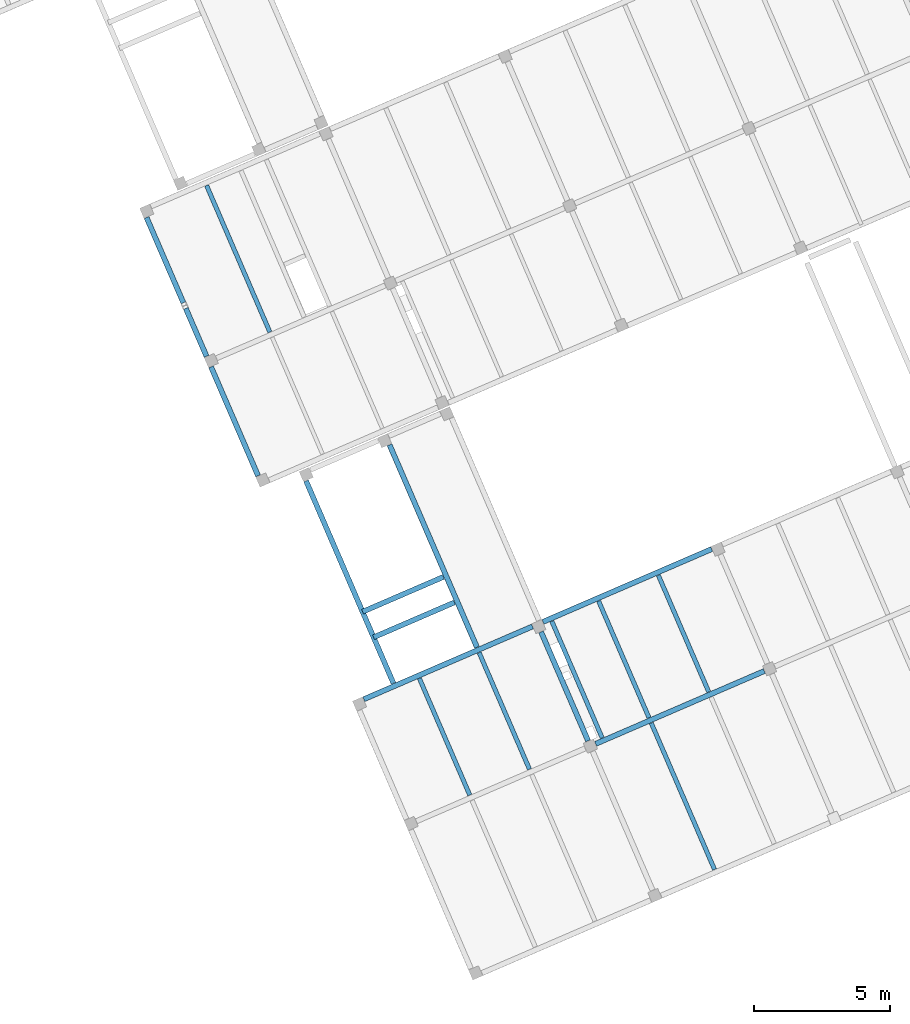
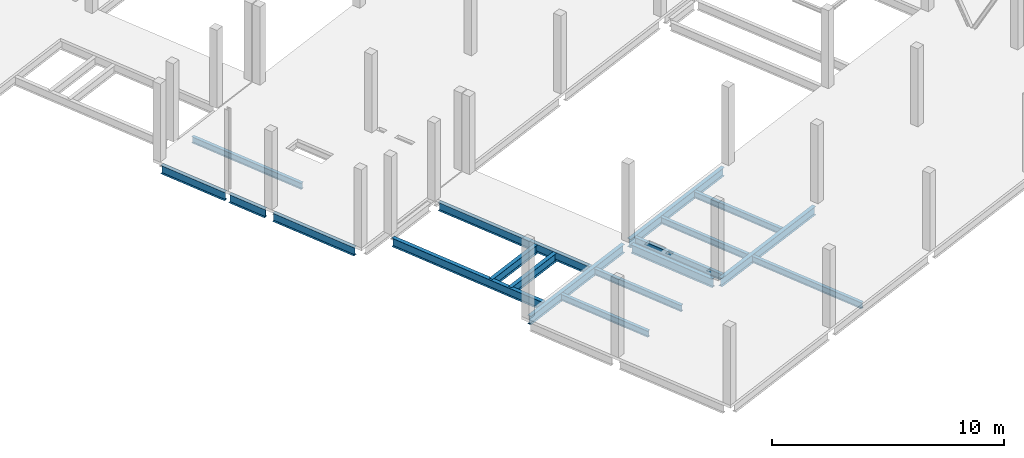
# One storey, part 7 of 24: 18 beams.
"""IFC4 building model written with IfcOpenShell, lengths in metres."""

import ifcopenshell
import ifcopenshell.guid

model = None  # the IFC model being written
_history = None  # IfcOwnerHistory: only IFC2X3 demands one
_inside = {}  # id of a spatial element -> (the spatial element, [elements in it])
_under = {}  # id of a project, library or spatial element -> (it, [spatial elements below it])
_declared = {}  # id of a project -> (the project, [libraries it declares])
_typed = {}  # id of a type object -> (the type object, [elements of that type])
_made_of = {}  # id of a material, layer set ... -> (it, [elements and type objects made of it])


def new_model(schema):
    """Start an empty IFC model of exactly this schema.

    Asked for "IFC4X3", IfcOpenShell would pick the latest addendum, in which some entities
    have other attributes; the version numbers below select the first issue.
    IFC2X3 requires an IfcOwnerHistory on every rooted entity: one is made here for all.
    """
    global model, _history
    if schema == "IFC4X3":
        model = ifcopenshell.file(schema_version=(4, 3, 0, 0))
    else:
        model = ifcopenshell.file(schema=schema)
    _inside.clear()
    _under.clear()
    _declared.clear()
    _typed.clear()
    _made_of.clear()
    _history = None
    if model.schema == "IFC2X3":
        org = make("IfcOrganization", Name="unknown")
        user = make(
            "IfcPersonAndOrganization",
            ThePerson=make("IfcPerson", FamilyName="unknown"),
            TheOrganization=org,
        )
        app = make(
            "IfcApplication",
            ApplicationDeveloper=org,
            Version="unknown",
            ApplicationFullName="unknown",
            ApplicationIdentifier="unknown",
        )
        _history = make(
            "IfcOwnerHistory",
            OwningUser=user,
            OwningApplication=app,
            ChangeAction="ADDED",
            CreationDate=0,
        )
    return model


def make(cls, **values):
    """One entity of the class cls with the attributes given. An attribute that is None is left unset."""
    return model.create_entity(
        cls, **{name: value for name, value in values.items() if value is not None}
    )


def entity(cls, *values):
    """Any entity or typed value of the class cls, its attributes in the order of the schema. None: left unset."""
    e = model.create_entity(cls)
    for i, value in enumerate(values):
        if value is not None:
            e[i] = value
    return e


def rooted(cls, **values):
    """An entity with a GlobalId (a new one), such as an element, a storey or a relation."""
    return make(cls, GlobalId=ifcopenshell.guid.new(), OwnerHistory=_history, **values)


def si_unit(unit_type, name, prefix=None):
    """IfcSIUnit, for example si_unit("LENGTHUNIT", "METRE", prefix="MILLI")."""
    return make("IfcSIUnit", UnitType=unit_type, Prefix=prefix, Name=name)


def converted_unit(unit_type, name, factor, base, dimensions=None, offset=None):
    """IfcConversionBasedUnit, such as the inch: factor (a typed value) times the base unit."""
    return make(
        "IfcConversionBasedUnit"
        if offset is None
        else "IfcConversionBasedUnitWithOffset",
        ConversionOffset=offset,
        Dimensions=None
        if dimensions is None
        else entity("IfcDimensionalExponents", *dimensions),
        UnitType=unit_type,
        Name=name,
        ConversionFactor=make(
            "IfcMeasureWithUnit", ValueComponent=factor, UnitComponent=base
        ),
    )


def derived_unit(unit_type, elements):
    """IfcDerivedUnit: a product of units, each with its exponent."""
    return make(
        "IfcDerivedUnit",
        Elements=[
            make("IfcDerivedUnitElement", Unit=unit, Exponent=power)
            for unit, power in elements
        ],
        UnitType=unit_type,
    )


def assignment(units):
    """IfcUnitAssignment: the units of a project."""
    return None if units is None else make("IfcUnitAssignment", Units=units)


def point(xyz):
    """IfcCartesianPoint."""
    return None if xyz is None else make("IfcCartesianPoint", Coordinates=xyz)


def direction(xyz):
    """IfcDirection."""
    return None if xyz is None else make("IfcDirection", DirectionRatios=xyz)


def frame(location, z_axis=None, x_axis=None):
    """IfcAxis2Placement3D, a coordinate frame: its origin and axes. An axis left out is left unset."""
    return make(
        "IfcAxis2Placement3D",
        Location=point(location),
        Axis=direction(z_axis),
        RefDirection=direction(x_axis),
    )


def origin():
    """The frame at (0, 0, 0) with its axes left unset."""
    return frame((0.0, 0.0, 0.0))


def place(relative_to, where):
    """IfcLocalPlacement: puts the frame where relative to a parent placement (None: the world)."""
    return make(
        "IfcLocalPlacement", PlacementRelTo=relative_to, RelativePlacement=where
    )


def context(
    kind, dimensions, precision=None, world=None, true_north=None, identifier=None
):
    """IfcGeometricRepresentationContext, for example the 3D "Model" context."""
    return make(
        "IfcGeometricRepresentationContext",
        ContextIdentifier=identifier,
        ContextType=kind,
        CoordinateSpaceDimension=dimensions,
        Precision=precision,
        WorldCoordinateSystem=world,
        TrueNorth=true_north,
    )


def subcontext(parent, identifier, kind, view, scale=None):
    """IfcGeometricRepresentationSubContext, for example "Body" below "Model"."""
    return make(
        "IfcGeometricRepresentationSubContext",
        ContextIdentifier=identifier,
        ContextType=kind,
        ParentContext=parent,
        TargetScale=scale,
        TargetView=view,
    )


def project(units=None, contexts=None):
    """IfcProject with its units and contexts."""
    return rooted(
        "IfcProject",
        Name="project",
        RepresentationContexts=contexts,
        UnitsInContext=assignment(units),
    )


def spatial(cls, under=None, at=None, **own):
    """A site, building, storey or space (cls), placed at a placement, below another one or the project."""
    s = rooted(cls, ObjectPlacement=at, **own)
    if under is not None:
        _under.setdefault(under.id(), (under, []))[1].append(s)
    return s


def point_list(points):
    """IfcCartesianPointList2D or 3D."""
    cls = (
        "IfcCartesianPointList2D" if len(points[0]) == 2 else "IfcCartesianPointList3D"
    )
    return make(cls, CoordList=points)


def line(*indices):
    """IfcLineIndex: a straight run through numbered points of an indexed curve."""
    return model.create_entity("IfcLineIndex", indices)


def arc(*indices):
    """IfcArcIndex: an arc through three numbered points of an indexed curve."""
    return model.create_entity("IfcArcIndex", indices)


def indexed_curve(points, segments=None, self_intersect=None):
    """IfcIndexedPolyCurve: lines and arcs through numbered points (the first is 1)."""
    return make(
        "IfcIndexedPolyCurve",
        Points=point_list(points),
        Segments=segments,
        SelfIntersect=self_intersect,
    )


def outline(outer, holes=None, kind="AREA"):
    """IfcArbitraryClosedProfileDef: a profile drawn as a closed curve; with holes, ...WithVoids."""
    if holes is None:
        return make("IfcArbitraryClosedProfileDef", ProfileType=kind, OuterCurve=outer)
    return make(
        "IfcArbitraryProfileDefWithVoids",
        ProfileType=kind,
        OuterCurve=outer,
        InnerCurves=holes,
    )


def extrude(swept, where, along, depth):
    """IfcExtrudedAreaSolid: the profile swept, set in the frame where, extruded along a direction by depth."""
    return make(
        "IfcExtrudedAreaSolid",
        SweptArea=swept,
        Position=where,
        ExtrudedDirection=direction(along),
        Depth=depth,
    )


def shape(context_of_items, identifier, shape_type, items):
    """IfcShapeRepresentation: the items that make up one representation, for example the "Body"."""
    return make(
        "IfcShapeRepresentation",
        ContextOfItems=context_of_items,
        RepresentationIdentifier=identifier,
        RepresentationType=shape_type,
        Items=items,
    )


def source(mapping_origin, context_of_items, identifier, shape_type, items):
    """IfcRepresentationMap: a shape defined once, which mapped items show again and again."""
    return make(
        "IfcRepresentationMap",
        MappingOrigin=mapping_origin,
        MappedRepresentation=shape(context_of_items, identifier, shape_type, items),
    )


def transform(
    local_origin,
    x_axis=None,
    y_axis=None,
    z_axis=None,
    scale=None,
    scale2=None,
    scale3=None,
    uniform=True,
):
    """IfcCartesianTransformationOperator3D, or its non-uniform kind. x_axis, y_axis, z_axis: its Axis1, 2, 3."""
    if uniform:
        return make(
            "IfcCartesianTransformationOperator3D",
            Axis1=direction(x_axis),
            Axis2=direction(y_axis),
            LocalOrigin=point(local_origin),
            Scale=scale,
            Axis3=direction(z_axis),
        )
    return make(
        "IfcCartesianTransformationOperator3DnonUniform",
        Axis1=direction(x_axis),
        Axis2=direction(y_axis),
        LocalOrigin=point(local_origin),
        Scale=scale,
        Axis3=direction(z_axis),
        Scale2=scale2,
        Scale3=scale3,
    )


def mapped(mapping_source, mapping_target):
    """IfcMappedItem: shows the shape of a source again, moved by a transform."""
    return make(
        "IfcMappedItem", MappingSource=mapping_source, MappingTarget=mapping_target
    )


def material(Name=None, Category=None):
    """IfcMaterial."""
    return make("IfcMaterial", Name=Name, Category=Category)


def made_of(thing, what):
    """Note that an element or type object is made of a material, layer set ...; save() writes the relation."""
    if what is not None:
        _made_of.setdefault(what.id(), (what, []))[1].append(thing)
    return thing


def type_object(cls, material=None, **own):
    """A type object (cls), such as IfcWallType, which elements share."""
    return made_of(rooted(cls, **own), material)


def type_shapes(of_type, sources):
    """Give a type object the sources (RepresentationMaps) that its elements show as mapped items."""
    of_type.RepresentationMaps = sources


def element(
    cls,
    number,
    at=None,
    inside=None,
    cuts=None,
    type_object=None,
    material=None,
    context=None,
    identifier="Body",
    shape_type=None,
    held_by="IfcProductDefinitionShape",
    body=None,
    shapes=None,
    **own,
):
    """One element of the class cls, such as IfcWall. Its Tag is "e" and its number.

    at: its placement. inside: the storey or other place that contains it. cuts: it is an
    opening in that element (IfcRelVoidsElement). A single representation is given by context,
    identifier, shape_type and body (its items); several are given by shapes. held_by: the class
    of the entity that holds the representations. save() writes the other relations.
    """
    e = rooted(cls, Tag="e%d" % number, ObjectPlacement=at, **own)
    if body is not None:
        shapes = [shape(context, identifier, shape_type, body)]
    if shapes is not None:
        e.Representation = make(held_by, Representations=shapes)
    if inside is not None:
        _inside.setdefault(inside.id(), (inside, []))[1].append(e)
    if cuts is not None:
        rooted(
            "IfcRelVoidsElement", RelatingBuildingElement=cuts, RelatedOpeningElement=e
        )
    if type_object is not None:
        _typed.setdefault(type_object.id(), (type_object, []))[1].append(e)
    return made_of(e, material)


def aggregate(whole, parts):
    """IfcRelAggregates: a whole, such as a stair, and the parts it consists of."""
    return rooted("IfcRelAggregates", RelatingObject=whole, RelatedObjects=parts)


def save(model, path):
    """Write the relations noted so far, then the file.

    IfcRelAggregates (storeys below a building ...), IfcRelContainedInSpatialStructure (elements
    in a storey), IfcRelDefinesByType, IfcRelAssociatesMaterial and IfcRelDeclares: one each for
    every whole, place, type object, material and project.
    """
    for whole, parts in _under.values():
        aggregate(whole, parts)
    for where, things in _inside.values():
        rooted(
            "IfcRelContainedInSpatialStructure",
            RelatedElements=things,
            RelatingStructure=where,
        )
    for kind, things in _typed.values():
        rooted("IfcRelDefinesByType", RelatedObjects=things, RelatingType=kind)
    for what, things in _made_of.values():
        rooted("IfcRelAssociatesMaterial", RelatedObjects=things, RelatingMaterial=what)
    for by, libraries in _declared.values():
        rooted("IfcRelDeclares", RelatingContext=by, RelatedDefinitions=libraries)
    model.write(path)


model = new_model("IFC4")

# Units and contexts
model_context = context("Model", 3, precision=1e-05, world=origin(), true_north=direction((6.12323399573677e-17, 1.0)))
body_context = subcontext(model_context, "Body", "Model", "MODEL_VIEW")
ifc_project = project(units=[si_unit("LENGTHUNIT", "METRE"), si_unit("AREAUNIT", "SQUARE_METRE"), si_unit("VOLUMEUNIT", "CUBIC_METRE"), converted_unit("PLANEANGLEUNIT", "DEGREE", entity("IfcPlaneAngleMeasure", 0.0174532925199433), si_unit("PLANEANGLEUNIT", "RADIAN"), dimensions=[0, 0, 0, 0, 0, 0, 0]), si_unit("MASSUNIT", "GRAM", prefix="KILO"), derived_unit("MOMENTOFINERTIAUNIT", [(si_unit("LENGTHUNIT", "METRE"), 4)]), derived_unit("LINEARFORCEUNIT", [(si_unit("MASSUNIT", "GRAM", prefix="KILO"), 1), (si_unit("TIMEUNIT", "SECOND"), -2)]), derived_unit("WARPINGCONSTANTUNIT", [(si_unit("LENGTHUNIT", "METRE"), 6)]), derived_unit("THERMALTRANSMITTANCEUNIT", [(si_unit("MASSUNIT", "GRAM", prefix="KILO"), 1), (si_unit("THERMODYNAMICTEMPERATUREUNIT", "KELVIN"), -1), (si_unit("TIMEUNIT", "SECOND"), -3)]), derived_unit("USERDEFINED", [(si_unit("MASSUNIT", "GRAM", prefix="KILO"), 1), (si_unit("TIMEUNIT", "SECOND"), -2), (si_unit("THERMODYNAMICTEMPERATUREUNIT", "KELVIN"), -1)]), derived_unit("THERMALRESISTANCEUNIT", [(si_unit("MASSUNIT", "GRAM", prefix="KILO"), -1), (si_unit("TIMEUNIT", "SECOND"), 3), (si_unit("THERMODYNAMICTEMPERATUREUNIT", "KELVIN"), 1)])], contexts=[model_context])

# Site, building, storey
site_placement = place(None, origin())
site = spatial("IfcSite", under=ifc_project, at=site_placement, Name="Default", CompositionType="ELEMENT")
building_placement = place(site_placement, frame((12.6613425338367, -82.5732315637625, 317.15), z_axis=(0.0, 0.0, 1.0), x_axis=(-0.396377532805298, 0.918087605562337, 0.0)))
building = spatial("IfcBuilding", under=site, at=building_placement, Name="CESFAM Coyhaique", CompositionType="ELEMENT")
storey_placement = place(building_placement, frame((0.0, 0.0, 4.20000000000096)))
storey = spatial("IfcBuildingStorey", under=building, at=storey_placement, Name="Nivel 2", CompositionType="ELEMENT", Elevation=4.20000000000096)

# Beams
ifc_material = material(Name="Steel, 45-345", Category="Metal")
beam_type_1 = type_object("IfcBeamType", Name="M_W Shapes:W450X190mm", PredefinedType="BEAM", material=ifc_material)
shared_shape_1 = source(origin(), body_context, "Body", "SweptSolid", [
    extrude(outline(indexed_curve([(-0.225, -0.0950000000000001), (-0.215350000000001, -0.0949999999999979), (-0.21535, -0.0105699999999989), (-0.213109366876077, -0.00516063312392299), (-0.2077, -0.00291999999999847), (0.207699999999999, -0.00291999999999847), (0.213109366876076, -0.00516063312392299), (0.215349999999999, -0.0105699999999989), (0.215349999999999, -0.0950000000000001), (0.225, -0.0950000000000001), (0.225, 0.0950000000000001), (0.215349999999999, 0.0950000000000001), (0.215349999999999, 0.0105700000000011), (0.213109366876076, 0.00516063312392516), (0.207699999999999, 0.00292000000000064), (-0.2077, 0.00292000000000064), (-0.213109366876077, 0.00516063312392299), (-0.215350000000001, 0.0105700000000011), (-0.215350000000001, 0.0950000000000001), (-0.225, 0.0950000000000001)], segments=[line(1, 2, 3), arc(3, 4, 5), line(5, 6), arc(6, 7, 8), line(8, 9, 10, 11, 12, 13), arc(13, 14, 15), line(15, 16), arc(16, 17, 18), line(18, 19, 20, 1)], self_intersect=False)), frame((10.3815534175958, 10.0028504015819, 3.82500000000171), z_axis=(1.0, 0.0, 0.0), x_axis=(0.0, 0.0, -1.0)), (0.0, 0.0, 1.0), 4.3746),
])
type_shapes(beam_type_1, [shared_shape_1])
beam_1_placement = place(storey_placement, frame((0.0, 0.0, -4.20000000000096)))
element("IfcBeam", 1, at=beam_1_placement, inside=storey, type_object=beam_type_1, Name="M_W Shapes:W450X190mm", ObjectType="M_W Shapes:W450X190mm", PredefinedType="BEAM", context=body_context, shape_type="MappedRepresentation", body=[
    mapped(shared_shape_1, transform((0.0, 0.0, 0.0), scale=1.0)),
])
beam_type_2 = type_object("IfcBeamType", Name="M_W Shapes:W450X190mm", PredefinedType="BEAM", material=ifc_material)
shared_shape_2 = source(origin(), body_context, "Body", "SweptSolid", [
    extrude(outline(indexed_curve([(-0.0949999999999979, -0.225000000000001), (0.0950000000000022, -0.225000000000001), (0.0950000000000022, -0.21535), (0.0105700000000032, -0.21535), (0.00516063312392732, -0.213109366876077), (0.0029200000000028, -0.2077), (0.0029200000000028, 0.207699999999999), (0.00516063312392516, 0.213109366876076), (0.0105700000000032, 0.21535), (0.0950000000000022, 0.21535), (0.0950000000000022, 0.224999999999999), (-0.0949999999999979, 0.224999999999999), (-0.0949999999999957, 0.21535), (-0.0105699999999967, 0.215349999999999), (-0.00516063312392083, 0.213109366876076), (-0.0029199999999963, 0.207699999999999), (-0.0029199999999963, -0.2077), (-0.00516063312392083, -0.213109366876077), (-0.0105699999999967, -0.21535), (-0.0949999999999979, -0.21535)], segments=[line(1, 2, 3, 4), arc(4, 5, 6), line(6, 7), arc(7, 8, 9), line(9, 10, 11, 12, 13, 14), arc(14, 15, 16), line(16, 17), arc(17, 18, 19), line(19, 20, 1)], self_intersect=False)), frame((15.0688534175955, 10.2155504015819, 3.82500000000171), z_axis=(0.0, 1.0, 0.0), x_axis=(-1.0, 0.0, 0.0)), (0.0, 0.0, 1.0), 6.7746),
])
type_shapes(beam_type_2, [shared_shape_2])
beam_2_placement = place(storey_placement, frame((0.0, 0.0, -4.20000000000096)))
element("IfcBeam", 2, at=beam_2_placement, inside=storey, type_object=beam_type_2, Name="M_W Shapes:W450X190mm", ObjectType="M_W Shapes:W450X190mm", PredefinedType="BEAM", context=body_context, shape_type="MappedRepresentation", body=[
    mapped(shared_shape_2, transform((0.0, 0.0, 0.0), scale=1.0)),
])
beam_type_3 = type_object("IfcBeamType", Name="M_W Shapes:W450X190mm", PredefinedType="BEAM", material=ifc_material)
shared_shape_3 = source(origin(), body_context, "Body", "SweptSolid", [
    extrude(outline(indexed_curve([(-0.225, -0.0950000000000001), (-0.215350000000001, -0.0949999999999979), (-0.21535, -0.0105699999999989), (-0.213109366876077, -0.00516063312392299), (-0.2077, -0.00291999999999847), (0.207699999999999, -0.00291999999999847), (0.213109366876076, -0.00516063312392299), (0.215349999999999, -0.0105699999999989), (0.215349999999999, -0.0950000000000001), (0.225, -0.0950000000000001), (0.225, 0.0950000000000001), (0.215349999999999, 0.0950000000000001), (0.215349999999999, 0.0105700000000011), (0.213109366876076, 0.00516063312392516), (0.207699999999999, 0.00292000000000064), (-0.2077, 0.00292000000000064), (-0.213109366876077, 0.00516063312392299), (-0.215350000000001, 0.0105700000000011), (-0.215350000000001, 0.0950000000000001), (-0.225, 0.0950000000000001)], segments=[line(1, 2, 3), arc(3, 4, 5), line(5, 6), arc(6, 7, 8), line(8, 9, 10, 11, 12, 13), arc(13, 14, 15), line(15, 16), arc(16, 17, 18), line(18, 19, 20, 1)], self_intersect=False)), frame((24.1815534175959, 17.3028504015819, 3.82500000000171), z_axis=(1.0, 0.0, 0.0), x_axis=(0.0, 0.0, -1.0)), (0.0, 0.0, 1.0), 4.3746),
])
type_shapes(beam_type_3, [shared_shape_3])
beam_3_placement = place(storey_placement, frame((0.0, 0.0, -4.20000000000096)))
element("IfcBeam", 3, at=beam_3_placement, inside=storey, type_object=beam_type_3, Name="M_W Shapes:W450X190mm", ObjectType="M_W Shapes:W450X190mm", PredefinedType="BEAM", context=body_context, shape_type="MappedRepresentation", body=[
    mapped(shared_shape_3, transform((0.0, 0.0, 0.0), scale=1.0)),
])
beam_type_4 = type_object("IfcBeamType", Name="M_W Shapes:W450X190mm", PredefinedType="BEAM", material=ifc_material)
shared_shape_4 = source(origin(), body_context, "Body", "SweptSolid", [
    extrude(outline(indexed_curve([(-0.0950000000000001, -0.225000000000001), (0.0950000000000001, -0.225000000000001), (0.0950000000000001, -0.21535), (0.0105700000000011, -0.21535), (0.00516063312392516, -0.213109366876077), (0.00292000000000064, -0.2077), (0.00292000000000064, 0.207699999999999), (0.00516063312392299, 0.213109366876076), (0.0105700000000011, 0.21535), (0.0950000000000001, 0.21535), (0.0950000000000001, 0.224999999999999), (-0.0950000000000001, 0.224999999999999), (-0.0949999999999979, 0.21535), (-0.0105699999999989, 0.215349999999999), (-0.00516063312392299, 0.213109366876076), (-0.00291999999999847, 0.207699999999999), (-0.00291999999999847, -0.2077), (-0.00516063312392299, -0.213109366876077), (-0.0105699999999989, -0.21535), (-0.0950000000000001, -0.21535)], segments=[line(1, 2, 3, 4), arc(4, 5, 6), line(6, 7), arc(7, 8, 9), line(9, 10, 11, 12, 13, 14), arc(14, 15, 16), line(16, 17), arc(17, 18, 19), line(19, 20, 1)], self_intersect=False)), frame((10.1688534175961, 3.0155504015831, 3.82500000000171), z_axis=(0.0, 1.0, 0.0), x_axis=(-1.0, 0.0, 0.0)), (0.0, 0.0, 1.0), 6.7746),
])
type_shapes(beam_type_4, [shared_shape_4])
beam_4_placement = place(storey_placement, frame((0.0, 0.0, -4.20000000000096)))
element("IfcBeam", 4, at=beam_4_placement, inside=storey, type_object=beam_type_4, Name="M_W Shapes:W450X190mm", ObjectType="M_W Shapes:W450X190mm", PredefinedType="BEAM", context=body_context, shape_type="MappedRepresentation", body=[
    mapped(shared_shape_4, transform((0.0, 0.0, 0.0), scale=1.0)),
])
beam_type_5 = type_object("IfcBeamType", Name="M_W Shapes:W450X190mm", PredefinedType="BEAM", material=ifc_material)
shared_shape_5 = source(origin(), body_context, "Body", "SweptSolid", [
    extrude(outline(indexed_curve([(-0.0950000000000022, -0.225000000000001), (0.0949999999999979, -0.225000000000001), (0.0949999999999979, -0.21535), (0.0105699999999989, -0.21535), (0.00516063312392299, -0.213109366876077), (0.00291999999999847, -0.2077), (0.00291999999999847, 0.207699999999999), (0.00516063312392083, 0.213109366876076), (0.0105699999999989, 0.21535), (0.0949999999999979, 0.21535), (0.0949999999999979, 0.224999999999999), (-0.0950000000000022, 0.224999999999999), (-0.0950000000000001, 0.21535), (-0.0105700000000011, 0.215349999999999), (-0.00516063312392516, 0.213109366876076), (-0.00292000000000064, 0.207699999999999), (-0.00292000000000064, -0.2077), (-0.00516063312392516, -0.213109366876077), (-0.0105700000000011, -0.21535), (-0.0950000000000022, -0.21535)], segments=[line(1, 2, 3, 4), arc(4, 5, 6), line(6, 7), arc(7, 8, 9), line(9, 10, 11, 12, 13, 14), arc(14, 15, 16), line(16, 17), arc(17, 18, 19), line(19, 20, 1)], self_intersect=False)), frame((15.0688534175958, 3.0155504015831, 3.82500000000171), z_axis=(0.0, 1.0, 0.0), x_axis=(-1.0, 0.0, 0.0)), (0.0, 0.0, 1.0), 6.7746),
])
type_shapes(beam_type_5, [shared_shape_5])
beam_5_placement = place(storey_placement, frame((0.0, 0.0, -4.20000000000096)))
element("IfcBeam", 5, at=beam_5_placement, inside=storey, type_object=beam_type_5, Name="M_W Shapes:W450X190mm", ObjectType="M_W Shapes:W450X190mm", PredefinedType="BEAM", context=body_context, shape_type="MappedRepresentation", body=[
    mapped(shared_shape_5, transform((0.0, 0.0, 0.0), scale=1.0)),
])
beam_type_6 = type_object("IfcBeamType", Name="M_W Shapes:W450X190mm", PredefinedType="BEAM", material=ifc_material)
shared_shape_6 = source(origin(), body_context, "Body", "SweptSolid", [
    extrude(outline(indexed_curve([(-0.225, -0.0949999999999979), (-0.215350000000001, -0.0949999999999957), (-0.21535, -0.0105699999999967), (-0.213109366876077, -0.00516063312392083), (-0.2077, -0.0029199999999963), (0.207699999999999, -0.0029199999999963), (0.213109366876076, -0.00516063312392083), (0.215349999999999, -0.0105699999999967), (0.215349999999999, -0.0949999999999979), (0.225, -0.0949999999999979), (0.225, 0.0950000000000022), (0.215349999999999, 0.0950000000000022), (0.215349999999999, 0.0105700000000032), (0.213109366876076, 0.00516063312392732), (0.207699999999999, 0.0029200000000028), (-0.2077, 0.0029200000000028), (-0.213109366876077, 0.00516063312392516), (-0.215350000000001, 0.0105700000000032), (-0.215350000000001, 0.0950000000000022), (-0.225, 0.0950000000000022)], segments=[line(1, 2, 3), arc(3, 4, 5), line(5, 6), arc(6, 7, 8), line(8, 9, 10, 11, 12, 13), arc(13, 14, 15), line(15, 16), arc(16, 17, 18), line(18, 19, 20, 1)], self_intersect=False)), frame((28.9815534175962, 17.3028504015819, 3.82500000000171), z_axis=(1.0, 0.0, 0.0), x_axis=(0.0, 0.0, -1.0)), (0.0, 0.0, 1.0), 1.9246),
])
type_shapes(beam_type_6, [shared_shape_6])
beam_6_placement = place(storey_placement, frame((0.0, 0.0, -4.20000000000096)))
element("IfcBeam", 6, at=beam_6_placement, inside=storey, type_object=beam_type_6, Name="M_W Shapes:W450X190mm", ObjectType="M_W Shapes:W450X190mm", PredefinedType="BEAM", context=body_context, shape_type="MappedRepresentation", body=[
    mapped(shared_shape_6, transform((0.0, 0.0, 0.0), scale=1.0)),
])
beam_type_7 = type_object("IfcBeamType", Name="M_W Shapes:W450X190mm", PredefinedType="BEAM", material=ifc_material)
shared_shape_7 = source(origin(), body_context, "Body", "SweptSolid", [
    extrude(outline(indexed_curve([(-0.225, -0.0949999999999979), (-0.215350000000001, -0.0949999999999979), (-0.21535, -0.0105699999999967), (-0.213109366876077, -0.00516063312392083), (-0.2077, -0.0029199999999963), (0.207699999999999, -0.0029199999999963), (0.213109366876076, -0.00516063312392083), (0.215349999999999, -0.0105699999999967), (0.215349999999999, -0.0949999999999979), (0.225, -0.0949999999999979), (0.225, 0.0950000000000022), (0.215349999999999, 0.0950000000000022), (0.215349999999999, 0.0105700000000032), (0.213109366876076, 0.00516063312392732), (0.207699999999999, 0.0029200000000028), (-0.2077, 0.0029200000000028), (-0.213109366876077, 0.00516063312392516), (-0.215350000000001, 0.0105700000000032), (-0.215350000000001, 0.0950000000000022), (-0.225, 0.0950000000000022)], segments=[line(1, 2, 3), arc(3, 4, 5), line(5, 6), arc(6, 7, 8), line(8, 9, 10, 11, 12, 13), arc(13, 14, 15), line(15, 16), arc(16, 17, 18), line(18, 19, 20, 1)], self_intersect=False)), frame((15.176553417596, 12.3978519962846, 3.82500000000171), z_axis=(1.0, 0.0, 0.0), x_axis=(0.0, 0.0, -1.0)), (0.0, 0.0, 1.0), 8.1296),
])
type_shapes(beam_type_7, [shared_shape_7])
beam_7_placement = place(storey_placement, frame((0.0, 0.0, -4.20000000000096)))
element("IfcBeam", 7, at=beam_7_placement, inside=storey, type_object=beam_type_7, Name="M_W Shapes:W450X190mm", ObjectType="M_W Shapes:W450X190mm", PredefinedType="BEAM", context=body_context, shape_type="MappedRepresentation", body=[
    mapped(shared_shape_7, transform((0.0, 0.0, 0.0), scale=1.0)),
])
beam_type_8 = type_object("IfcBeamType", Name="M_W Shapes:W450X190mm", PredefinedType="BEAM", material=ifc_material)
shared_shape_8 = source(origin(), body_context, "Body", "SweptSolid", [
    extrude(outline(indexed_curve([(-0.225, -0.0950000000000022), (-0.215350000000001, -0.0950000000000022), (-0.21535, -0.0105700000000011), (-0.213109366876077, -0.00516063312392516), (-0.2077, -0.00292000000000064), (0.207699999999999, -0.00292000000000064), (0.213109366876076, -0.00516063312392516), (0.215349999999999, -0.0105700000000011), (0.215349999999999, -0.0950000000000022), (0.225, -0.0950000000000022), (0.225, 0.0949999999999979), (0.215349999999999, 0.0949999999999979), (0.215349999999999, 0.0105699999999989), (0.213109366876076, 0.00516063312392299), (0.207699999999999, 0.00291999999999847), (-0.2077, 0.00291999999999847), (-0.213109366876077, 0.00516063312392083), (-0.215350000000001, 0.0105699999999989), (-0.215350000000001, 0.0949999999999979), (-0.225, 0.0949999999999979)], segments=[line(1, 2, 3), arc(3, 4, 5), line(5, 6), arc(6, 7, 8), line(8, 9, 10, 11, 12, 13), arc(13, 14, 15), line(15, 16), arc(16, 17, 18), line(18, 19, 20, 1)], self_intersect=False)), frame((15.176553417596, 15.7528504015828, 3.82500000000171), z_axis=(1.0, 0.0, 0.0), x_axis=(0.0, 0.0, -1.0)), (0.0, 0.0, 1.0), 8.1296),
])
type_shapes(beam_type_8, [shared_shape_8])
beam_8_placement = place(storey_placement, frame((0.0, 0.0, -4.20000000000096)))
element("IfcBeam", 8, at=beam_8_placement, inside=storey, type_object=beam_type_8, Name="M_W Shapes:W450X190mm", ObjectType="M_W Shapes:W450X190mm", PredefinedType="BEAM", context=body_context, shape_type="MappedRepresentation", body=[
    mapped(shared_shape_8, transform((0.0, 0.0, 0.0), scale=1.0)),
])
beam_type_9 = type_object("IfcBeamType", Name="M_W Shapes:W450X190mm", PredefinedType="BEAM", material=ifc_material)
shared_shape_9 = source(origin(), body_context, "Body", "SweptSolid", [
    extrude(outline(indexed_curve([(-0.225, -0.0950000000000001), (-0.215350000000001, -0.0950000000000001), (-0.21535, -0.0105699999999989), (-0.213109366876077, -0.00516063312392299), (-0.2077, -0.00291999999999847), (0.207699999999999, -0.00291999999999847), (0.213109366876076, -0.00516063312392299), (0.215349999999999, -0.0105699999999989), (0.215349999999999, -0.0950000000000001), (0.225, -0.0950000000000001), (0.225, 0.0950000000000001), (0.215349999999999, 0.0950000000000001), (0.215349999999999, 0.0105700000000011), (0.213109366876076, 0.00516063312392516), (0.207699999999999, 0.00292000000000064), (-0.2077, 0.00292000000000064), (-0.213109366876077, 0.00516063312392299), (-0.215350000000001, 0.0105700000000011), (-0.215350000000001, 0.0950000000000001), (-0.225, 0.0950000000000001)], segments=[line(1, 2, 3), arc(3, 4, 5), line(5, 6), arc(6, 7, 8), line(8, 9, 10, 11, 12, 13), arc(13, 14, 15), line(15, 16), arc(16, 17, 18), line(18, 19, 20, 1)], self_intersect=False)), frame((31.1315534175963, 17.3028504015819, 3.82500000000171), z_axis=(1.0, 0.0, 0.0), x_axis=(0.0, 0.0, -1.0)), (0.0, 0.0, 1.0), 3.4246),
])
type_shapes(beam_type_9, [shared_shape_9])
beam_9_placement = place(storey_placement, frame((0.0, 0.0, -4.20000000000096)))
element("IfcBeam", 9, at=beam_9_placement, inside=storey, type_object=beam_type_9, Name="M_W Shapes:W450X190mm", ObjectType="M_W Shapes:W450X190mm", PredefinedType="BEAM", context=body_context, shape_type="MappedRepresentation", body=[
    mapped(shared_shape_9, transform((0.0, 0.0, 0.0), scale=1.0)),
])
beam_type_10 = type_object("IfcBeamType", Name="M_W Shapes:W330X160mm", PredefinedType="BEAM", material=ifc_material)
shared_shape_10 = source(origin(), body_context, "Body", "SweptSolid", [
    extrude(outline(indexed_curve([(-0.164999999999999, -0.079999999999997), (-0.15535, -0.079999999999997), (-0.15535, -0.0105699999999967), (-0.153109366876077, -0.00516063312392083), (-0.1477, -0.0029199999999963), (0.1477, -0.0029199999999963), (0.153109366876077, -0.00516063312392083), (0.15535, -0.0105699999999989), (0.15535, -0.079999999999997), (0.165, -0.079999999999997), (0.165000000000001, 0.0800000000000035), (0.15535, 0.0800000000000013), (0.15535, 0.0105700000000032), (0.153109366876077, 0.00516063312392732), (0.1477, 0.0029200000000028), (-0.1477, 0.0029200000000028), (-0.153109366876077, 0.00516063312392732), (-0.15535, 0.0105700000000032), (-0.15535, 0.0800000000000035), (-0.164999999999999, 0.0800000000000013)], segments=[line(1, 2, 3), arc(3, 4, 5), line(5, 6), arc(6, 7, 8), line(8, 9, 10, 11, 12, 13), arc(13, 14, 15), line(15, 16), arc(16, 17, 18), line(18, 19, 20, 1)], self_intersect=False)), frame((10.2765534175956, 12.4028504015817, 3.88500000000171), z_axis=(1.0, 0.0, 0.0), x_axis=(0.0, 0.0, -1.0)), (0.0, 0.0, 1.0), 4.6846),
])
type_shapes(beam_type_10, [shared_shape_10])
beam_10_placement = place(storey_placement, frame((0.0, 0.0, -4.20000000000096)))
element("IfcBeam", 10, at=beam_10_placement, inside=storey, type_object=beam_type_10, Name="M_W Shapes:W330X160mm", ObjectType="M_W Shapes:W330X160mm", PredefinedType="BEAM", context=body_context, shape_type="MappedRepresentation", body=[
    mapped(shared_shape_10, transform((0.0, 0.0, 0.0), scale=1.0)),
])
beam_type_11 = type_object("IfcBeamType", Name="M_W Shapes:W330X160mm", PredefinedType="BEAM", material=ifc_material)
shared_shape_11 = source(origin(), body_context, "Body", "SweptSolid", [
    extrude(outline(indexed_curve([(-0.164999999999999, -0.0799999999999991), (-0.15535, -0.0799999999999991), (-0.15535, -0.0105699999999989), (-0.153109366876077, -0.00516063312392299), (-0.1477, -0.00291999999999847), (0.1477, -0.00291999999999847), (0.153109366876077, -0.00516063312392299), (0.15535, -0.0105700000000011), (0.15535, -0.0799999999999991), (0.165, -0.0799999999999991), (0.165000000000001, 0.0800000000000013), (0.15535, 0.0799999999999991), (0.15535, 0.0105700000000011), (0.153109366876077, 0.00516063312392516), (0.1477, 0.00292000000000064), (-0.1477, 0.00292000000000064), (-0.153109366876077, 0.00516063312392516), (-0.15535, 0.0105700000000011), (-0.15535, 0.0800000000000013), (-0.164999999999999, 0.0799999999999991)], segments=[line(1, 2, 3), arc(3, 4, 5), line(5, 6), arc(6, 7, 8), line(8, 9, 10, 11, 12, 13), arc(13, 14, 15), line(15, 16), arc(16, 17, 18), line(18, 19, 20, 1)], self_intersect=False)), frame((10.2765534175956, 14.8028504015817, 3.88500000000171), z_axis=(1.0, 0.0, 0.0), x_axis=(0.0, 0.0, -1.0)), (0.0, 0.0, 1.0), 4.6846),
])
type_shapes(beam_type_11, [shared_shape_11])
beam_11_placement = place(storey_placement, frame((0.0, 0.0, -4.20000000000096)))
element("IfcBeam", 11, at=beam_11_placement, inside=storey, type_object=beam_type_11, Name="M_W Shapes:W330X160mm", ObjectType="M_W Shapes:W330X160mm", PredefinedType="BEAM", context=body_context, shape_type="MappedRepresentation", body=[
    mapped(shared_shape_11, transform((0.0, 0.0, 0.0), scale=1.0)),
])
beam_type_12 = type_object("IfcBeamType", Name="M_W Shapes:W330X160mm", PredefinedType="BEAM", material=ifc_material)
shared_shape_12 = source(origin(), body_context, "Body", "SweptSolid", [
    extrude(outline(indexed_curve([(-0.164999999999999, -0.0799999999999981), (-0.15535, -0.0799999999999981), (-0.15535, -0.0105699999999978), (-0.153109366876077, -0.00516063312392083), (-0.1477, -0.00291999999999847), (0.1477, -0.00291999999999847), (0.153109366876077, -0.00516063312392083), (0.15535, -0.0105699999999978), (0.15535, -0.0799999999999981), (0.165, -0.0799999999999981), (0.165, 0.0800000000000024), (0.15535, 0.0800000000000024), (0.15535, 0.0105700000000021), (0.153109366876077, 0.00516063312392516), (0.1477, 0.00292000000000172), (-0.1477, 0.00292000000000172), (-0.153109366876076, 0.00516063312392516), (-0.15535, 0.0105700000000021), (-0.15535, 0.0800000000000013), (-0.164999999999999, 0.0800000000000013)], segments=[line(1, 2, 3), arc(3, 4, 5), line(5, 6), arc(6, 7, 8), line(8, 9, 10, 11, 12, 13), arc(13, 14, 15), line(15, 16), arc(16, 17, 18), line(18, 19, 20, 1)], self_intersect=False)), frame((4.17655341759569, 7.6028504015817, 3.88500000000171), z_axis=(1.0, 0.0, 0.0), x_axis=(0.0, 0.0, -1.0)), (0.0, 0.0, 1.0), 5.8846),
])
type_shapes(beam_type_12, [shared_shape_12])
beam_12_placement = place(storey_placement, frame((0.0, 0.0, -4.20000000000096)))
element("IfcBeam", 12, at=beam_12_placement, inside=storey, type_object=beam_type_12, Name="M_W Shapes:W330X160mm", ObjectType="M_W Shapes:W330X160mm", PredefinedType="BEAM", context=body_context, shape_type="MappedRepresentation", body=[
    mapped(shared_shape_12, transform((0.0, 0.0, 0.0), scale=1.0)),
])
beam_type_13 = type_object("IfcBeamType", Name="M_W Shapes:W330X160mm", PredefinedType="BEAM", material=ifc_material)
shared_shape_13 = source(origin(), body_context, "Body", "SweptSolid", [
    extrude(outline(indexed_curve([(-0.164999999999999, -0.0799999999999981), (-0.15535, -0.0799999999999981), (-0.15535, -0.0105699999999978), (-0.153109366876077, -0.00516063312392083), (-0.1477, -0.00291999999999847), (0.1477, -0.00291999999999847), (0.153109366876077, -0.00516063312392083), (0.15535, -0.0105699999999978), (0.15535, -0.0799999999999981), (0.165, -0.0799999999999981), (0.165000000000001, 0.0800000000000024), (0.15535, 0.0800000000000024), (0.15535, 0.0105700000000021), (0.153109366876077, 0.00516063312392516), (0.1477, 0.00292000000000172), (-0.1477, 0.0029200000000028), (-0.153109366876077, 0.00516063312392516), (-0.15535, 0.0105700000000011), (-0.15535, 0.0800000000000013), (-0.164999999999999, 0.0800000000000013)], segments=[line(1, 2, 3), arc(3, 4, 5), line(5, 6), arc(6, 7, 8), line(8, 9, 10, 11, 12, 13), arc(13, 14, 15), line(15, 16), arc(16, 17, 18), line(18, 19, 20, 1)], self_intersect=False)), frame((10.2765534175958, 7.6028504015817, 3.88500000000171), z_axis=(1.0, 0.0, 0.0), x_axis=(0.0, 0.0, -1.0)), (0.0, 0.0, 1.0), 4.6846),
])
type_shapes(beam_type_13, [shared_shape_13])
beam_13_placement = place(storey_placement, frame((0.0, 0.0, -4.20000000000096)))
element("IfcBeam", 13, at=beam_13_placement, inside=storey, type_object=beam_type_13, Name="M_W Shapes:W330X160mm", ObjectType="M_W Shapes:W330X160mm", PredefinedType="BEAM", context=body_context, shape_type="MappedRepresentation", body=[
    mapped(shared_shape_13, transform((0.0, 0.0, 0.0), scale=1.0)),
])
beam_type_14 = type_object("IfcBeamType", Name="M_W Shapes:W330X160mm", PredefinedType="BEAM", material=ifc_material)
shared_shape_14 = source(origin(), body_context, "Body", "SweptSolid", [
    extrude(outline(indexed_curve([(-0.164999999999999, -0.0799999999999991), (-0.15535, -0.0799999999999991), (-0.15535, -0.0105699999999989), (-0.153109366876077, -0.00516063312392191), (-0.1477, -0.00291999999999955), (0.1477, -0.00291999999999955), (0.153109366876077, -0.00516063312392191), (0.15535, -0.0105699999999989), (0.15535, -0.0799999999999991), (0.165, -0.0799999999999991), (0.165000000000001, 0.0800000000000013), (0.15535, 0.0800000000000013), (0.15535, 0.0105700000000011), (0.153109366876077, 0.00516063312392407), (0.1477, 0.00292000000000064), (-0.1477, 0.00292000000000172), (-0.153109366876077, 0.00516063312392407), (-0.15535, 0.01057), (-0.15535, 0.0800000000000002), (-0.164999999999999, 0.0800000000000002)], segments=[line(1, 2, 3), arc(3, 4, 5), line(5, 6), arc(6, 7, 8), line(8, 9, 10, 11, 12, 13), arc(13, 14, 15), line(15, 16), arc(16, 17, 18), line(18, 19, 20, 1)], self_intersect=False)), frame((10.2765534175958, 5.20285040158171, 3.88500000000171), z_axis=(1.0, 0.0, 0.0), x_axis=(0.0, 0.0, -1.0)), (0.0, 0.0, 1.0), 4.6846),
])
type_shapes(beam_type_14, [shared_shape_14])
beam_14_placement = place(storey_placement, frame((0.0, 0.0, -4.20000000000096)))
element("IfcBeam", 14, at=beam_14_placement, inside=storey, type_object=beam_type_14, Name="M_W Shapes:W330X160mm", ObjectType="M_W Shapes:W330X160mm", PredefinedType="BEAM", context=body_context, shape_type="MappedRepresentation", body=[
    mapped(shared_shape_14, transform((0.0, 0.0, 0.0), scale=1.0)),
])
beam_type_15 = type_object("IfcBeamType", Name="M_W Shapes:W330X160mm", PredefinedType="BEAM", material=ifc_material)
shared_shape_15 = source(origin(), body_context, "Body", "SweptSolid", [
    extrude(outline(indexed_curve([(-0.164999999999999, -0.0800000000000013), (-0.15535, -0.0800000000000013), (-0.15535, -0.0105700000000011), (-0.153109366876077, -0.00516063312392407), (-0.1477, -0.00292000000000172), (0.1477, -0.00292000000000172), (0.153109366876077, -0.00516063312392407), (0.15535, -0.0105700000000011), (0.15535, -0.0800000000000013), (0.165, -0.0800000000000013), (0.165000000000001, 0.0799999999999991), (0.15535, 0.0799999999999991), (0.15535, 0.0105699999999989), (0.153109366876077, 0.00516063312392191), (0.1477, 0.00291999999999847), (-0.1477, 0.00291999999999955), (-0.153109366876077, 0.00516063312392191), (-0.15535, 0.0105699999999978), (-0.15535, 0.0799999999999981), (-0.164999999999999, 0.0799999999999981)], segments=[line(1, 2, 3), arc(3, 4, 5), line(5, 6), arc(6, 7, 8), line(8, 9, 10, 11, 12, 13), arc(13, 14, 15), line(15, 16), arc(16, 17, 18), line(18, 19, 20, 1)], self_intersect=False)), frame((10.2765534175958, 9.48285037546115, 3.88500000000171), z_axis=(1.0, 0.0, 0.0), x_axis=(0.0, 0.0, -1.0)), (0.0, 0.0, 1.0), 4.6846),
])
type_shapes(beam_type_15, [shared_shape_15])
beam_15_placement = place(storey_placement, frame((0.0, 0.0, -4.20000000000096)))
element("IfcBeam", 15, at=beam_15_placement, inside=storey, type_object=beam_type_15, Name="M_W Shapes:W330X160mm", ObjectType="M_W Shapes:W330X160mm", PredefinedType="BEAM", context=body_context, shape_type="MappedRepresentation", body=[
    mapped(shared_shape_15, transform((0.0, 0.0, 0.0), scale=1.0)),
])
beam_type_16 = type_object("IfcBeamType", Name="M_W Shapes:W450X190mm", PredefinedType="BEAM", material=ifc_material)
shared_shape_16 = source(origin(), body_context, "Body", "SweptSolid", [
    extrude(outline(indexed_curve([(-0.0950000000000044, -0.225000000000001), (0.0949999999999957, -0.225000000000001), (0.0949999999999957, -0.21535), (0.0105699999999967, -0.21535), (0.00516063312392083, -0.213109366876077), (0.0029199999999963, -0.2077), (0.0029199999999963, 0.207699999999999), (0.00516063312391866, 0.213109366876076), (0.0105699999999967, 0.21535), (0.0949999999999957, 0.21535), (0.0949999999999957, 0.224999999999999), (-0.0950000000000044, 0.224999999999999), (-0.0950000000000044, 0.21535), (-0.0105700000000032, 0.215349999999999), (-0.00516063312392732, 0.213109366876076), (-0.0029200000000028, 0.207699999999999), (-0.0029200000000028, -0.2077), (-0.00516063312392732, -0.213109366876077), (-0.0105700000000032, -0.21535), (-0.0950000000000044, -0.21535)], segments=[line(1, 2, 3, 4), arc(4, 5, 6), line(6, 7), arc(7, 8, 9), line(9, 10, 11, 12, 13, 14), arc(14, 15, 16), line(16, 17), arc(17, 18, 19), line(19, 20, 1)], self_intersect=False)), frame((18.0487594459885, 12.5056011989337, 3.82500000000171), z_axis=(0.0, 1.0, 0.0), x_axis=(-1.0, 0.0, 0.0)), (0.0, 0.0, 1.0), 3.2472),
])
type_shapes(beam_type_16, [shared_shape_16])
beam_16_placement = place(storey_placement, frame((0.0, 0.0, -4.20000000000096)))
element("IfcBeam", 16, at=beam_16_placement, inside=storey, type_object=beam_type_16, Name="M_W Shapes:W450X190mm", ObjectType="M_W Shapes:W450X190mm", PredefinedType="BEAM", context=body_context, shape_type="MappedRepresentation", body=[
    mapped(shared_shape_16, transform((0.0, 0.0, 0.0), scale=1.0)),
])
beam_type_17 = type_object("IfcBeamType", Name="M_W Shapes:W450X190mm", PredefinedType="BEAM", material=ifc_material)
shared_shape_17 = source(origin(), body_context, "Body", "SweptSolid", [
    extrude(outline(indexed_curve([(-0.0950000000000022, -0.225000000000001), (0.0949999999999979, -0.225000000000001), (0.0949999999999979, -0.21535), (0.0105699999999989, -0.21535), (0.00516063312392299, -0.213109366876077), (0.00291999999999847, -0.2077), (0.00291999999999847, 0.207699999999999), (0.00516063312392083, 0.213109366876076), (0.0105699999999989, 0.21535), (0.0949999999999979, 0.21535), (0.0949999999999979, 0.224999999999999), (-0.0950000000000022, 0.224999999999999), (-0.0950000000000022, 0.21535), (-0.0105700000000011, 0.215349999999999), (-0.00516063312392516, 0.213109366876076), (-0.00292000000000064, 0.207699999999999), (-0.00292000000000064, -0.2077), (-0.00516063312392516, -0.213109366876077), (-0.0105700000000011, -0.21535), (-0.0950000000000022, -0.21535)], segments=[line(1, 2, 3, 4), arc(4, 5, 6), line(6, 7), arc(7, 8, 9), line(9, 10, 11, 12, 13, 14), arc(14, 15, 16), line(16, 17), arc(17, 18, 19), line(19, 20, 1)], self_intersect=False)), frame((17.0237557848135, 12.5056011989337, 3.82500000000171), z_axis=(0.0, 1.0, 0.0), x_axis=(-1.0, 0.0, 0.0)), (0.0, 0.0, 1.0), 3.2472),
])
type_shapes(beam_type_17, [shared_shape_17])
beam_17_placement = place(storey_placement, frame((0.0, 0.0, -4.20000000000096)))
element("IfcBeam", 17, at=beam_17_placement, inside=storey, type_object=beam_type_17, Name="M_W Shapes:W450X190mm", ObjectType="M_W Shapes:W450X190mm", PredefinedType="BEAM", context=body_context, shape_type="MappedRepresentation", body=[
    mapped(shared_shape_17, transform((0.0, 0.0, 0.0), scale=1.0)),
])
beam_type_18 = type_object("IfcBeamType", Name="M_W Shapes:W330X160mm", PredefinedType="BEAM", material=ifc_material)
shared_shape_18 = source(origin(), body_context, "Body", "SweptSolid", [
    extrude(outline(indexed_curve([(-0.164999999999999, -0.0799999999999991), (-0.15535, -0.0799999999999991), (-0.15535, -0.0105699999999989), (-0.153109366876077, -0.00516063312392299), (-0.1477, -0.00291999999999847), (0.1477, -0.00291999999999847), (0.153109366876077, -0.00516063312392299), (0.15535, -0.0105700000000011), (0.15535, -0.0799999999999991), (0.165, -0.0799999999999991), (0.165000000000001, 0.0800000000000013), (0.15535, 0.0799999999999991), (0.15535, 0.0105700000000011), (0.153109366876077, 0.00516063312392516), (0.1477, 0.00292000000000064), (-0.1477, 0.00292000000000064), (-0.153109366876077, 0.00516063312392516), (-0.15535, 0.0105700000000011), (-0.15535, 0.0800000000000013), (-0.164999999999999, 0.0799999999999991)], segments=[line(1, 2, 3), arc(3, 4, 5), line(5, 6), arc(6, 7, 8), line(8, 9, 10, 11, 12, 13), arc(13, 14, 15), line(15, 16), arc(16, 17, 18), line(18, 19, 20, 1)], self_intersect=False)), frame((28.876553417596, 14.8028515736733, 3.88500000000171), z_axis=(1.0, 0.0, 0.0), x_axis=(0.0, 0.0, -1.0)), (0.0, 0.0, 1.0), 5.8873),
])
type_shapes(beam_type_18, [shared_shape_18])
beam_18_placement = place(storey_placement, frame((0.0, 0.0, -4.20000000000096)))
element("IfcBeam", 18, at=beam_18_placement, inside=storey, type_object=beam_type_18, Name="M_W Shapes:W330X160mm", ObjectType="M_W Shapes:W330X160mm", PredefinedType="BEAM", context=body_context, shape_type="MappedRepresentation", body=[
    mapped(shared_shape_18, transform((0.0, 0.0, 0.0), scale=1.0)),
])

save(model, "model.ifc")
